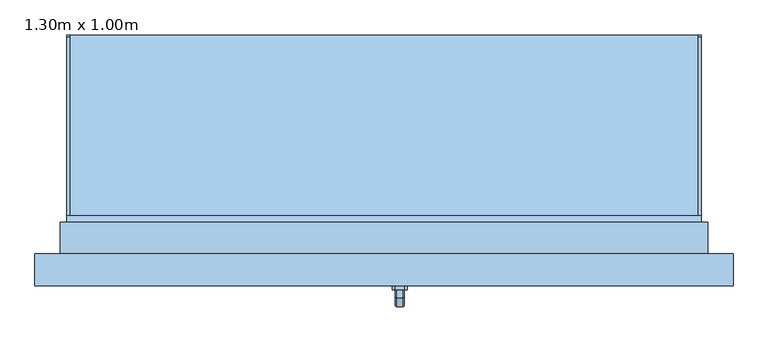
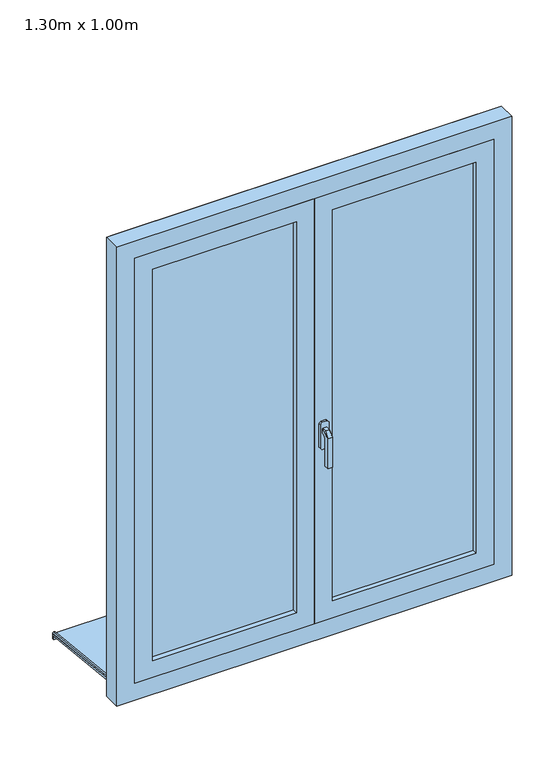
"""IFC4 building model written with IfcOpenShell, lengths in millimetres: window geometry, 2 Vantaux - Droits : 1.30m x 1.00m."""

from ifc_helpers import new_model, si_unit, point, frame, frame_2d, origin, place, context, project, spatial, polyline, circle_curve, trimmed, segment, composite_curve, outline, extrude, faceted_brep, source, transform, mapped, element, save


def window_1_30m_x_1_00m_6cb13c39(model_context):
    return source(origin(), model_context, "Body", "SolidModel", [
        faceted_brep([(30.6460097, -196.0, 1422.0339292), (32.0339292, -196.0, 1420.6460097), (32.0339292, -196.0, 1409.3323012), (30.6676988, -196.0, 1407.9660708), (19.3323012, -196.0, 1407.9660708), (17.9660708, -196.0, 1409.3323012), (17.9660708, -196.0, 1420.6460097), (19.3539903, -196.0, 1422.0339292), (30.6460097, -208.9135489, 1422.0339292), (32.0339292, -208.3386538, 1420.6460097), (32.0339292, -221.6460097, 1407.3386538), (32.0339292, -221.6460097, 1320.0), (32.0339292, -210.3323012, 1320.0), (32.0339292, -210.3323012, 1402.6523623), (32.0339292, -203.6523623, 1409.3323012), (30.6676988, -203.0864511, 1407.9660708), (19.3323012, -203.0864511, 1407.9660708), (17.9660708, -203.6523623, 1409.3323012), (17.9660708, -210.3323012, 1402.6523623), (17.9660708, -210.3323012, 1320.0), (17.9660708, -221.6460097, 1320.0), (17.9660708, -221.6460097, 1407.3386538), (17.9660708, -208.3386538, 1420.6460097), (19.3539903, -208.9135489, 1422.0339292), (30.6460097, -223.0339292, 1407.9135489), (30.6676988, -208.9660708, 1402.0864511), (19.3323012, -208.9660708, 1402.0864511), (19.3539903, -223.0339292, 1407.9135489), (30.6460097, -223.0339292, 1320.0), (19.3539903, -223.0339292, 1320.0), (19.3323012, -208.9660708, 1320.0), (30.6676988, -208.9660708, 1320.0)], [[[0, 1, 2, 3, 4, 5, 6, 7]], [[1, 0, 8, 9]], [[2, 1, 9, 10, 11, 12, 13, 14]], [[3, 2, 14, 15]], [[4, 3, 15, 16]], [[5, 4, 16, 17]], [[6, 5, 17, 18, 19, 20, 21, 22]], [[7, 6, 22, 23]], [[0, 7, 23, 8]], [[9, 8, 24, 10]], [[15, 14, 13, 25]], [[16, 15, 25, 26]], [[17, 16, 26, 18]], [[23, 22, 21, 27]], [[8, 23, 27, 24]], [[28, 29, 20, 19, 30, 31, 12, 11]], [[10, 24, 28, 11]], [[25, 13, 12, 31]], [[26, 25, 31, 30]], [[18, 26, 30, 19]], [[27, 21, 20, 29]], [[24, 27, 29, 28]]]),
        extrude(outline(polyline([(1440.0, 32.0), (1440.0, 18.0), (1435.0, 13.0), (1365.0, 13.0), (1360.0, 18.0), (1360.0, 32.0), (1365.0, 37.0), (1435.0, 37.0), (1440.0, 32.0)])), frame((0.0, -196.0, 0.0), z_axis=(0.0, 1.0, 0.0), x_axis=(0.0, 0.0, 1.0)), (0.0, 0.0, 1.0), 6.0),
        extrude(outline(polyline([(205.0, 757.1473777), (205.0, 741.5916612), (200.0, 742.1171824), (200.0, 752.4176871), (-110.0, 785.0), (-110.0, 800.0), (-105.0, 800.0), (-105.0, 789.7296906), (205.0, 757.1473777)])), frame((-500.0, 0.0, 0.0), z_axis=(1.0, 0.0, 0.0), x_axis=(0.0, 1.0, 0.0)), (0.0, 0.0, 1.0), 1000.0),
        extrude(outline(composite_curve([segment(polyline([(205.0, 757.1473777), (-105.0, 789.7296906), (-105.0, 794.757232), (201.4181139, 762.5513905)]), True, "CONTINUOUS"), segment(trimmed(circle_curve(frame_2d((201.0, 758.5733029)), 4.0), [point((201.4181139, 762.5513905))], [point((205.0, 758.5733029))], False, "CARTESIAN"), True, "CONTINUOUS"), segment(polyline([(205.0, 758.5733029), (205.0, 757.1473777)]), True, "CONTINUOUS")], self_intersect=False)), frame((-500.0, 0.0, 0.0), z_axis=(1.0, 0.0, 0.0), x_axis=(0.0, 1.0, 0.0)), (0.0, 0.0, 1.0), 5.0),
        extrude(outline(composite_curve([segment(polyline([(205.0, 757.1473777), (-105.0, 789.7296906), (-105.0, 794.757232), (201.4181139, 762.5513905)]), True, "CONTINUOUS"), segment(trimmed(circle_curve(frame_2d((201.0, 758.5733029)), 4.0), [point((201.4181139, 762.5513905))], [point((205.0, 758.5733029))], False, "CARTESIAN"), True, "CONTINUOUS"), segment(polyline([(205.0, 758.5733029), (205.0, 757.1473777)]), True, "CONTINUOUS")], self_intersect=False)), frame((495.0, 0.0, 0.0), z_axis=(1.0, 0.0, 0.0), x_axis=(0.0, 1.0, 0.0)), (0.0, 0.0, 1.0), 5.0),
        extrude(outline(polyline([(850.0, 0.0), (2100.0, 0.0), (2100.0, -500.0), (850.0, -500.0), (850.0, 0.0)]), holes=[polyline([(900.0, -450.0), (2050.0, -450.0), (2050.0, -50.0), (900.0, -50.0), (900.0, -450.0)])]), frame((0.0, -190.0, 0.0), z_axis=(0.0, 1.0, 0.0), x_axis=(0.0, 0.0, 1.0)), (0.0, 0.0, 1.0), 40.0),
        extrude(outline(polyline([(50.0, -164.0), (450.0, -164.0), (450.0, -176.0), (50.0, -176.0), (50.0, -164.0)])), frame((0.0, 0.0, 900.0), z_axis=(0.0, 0.0, 1.0), x_axis=(1.0, 0.0, 0.0)), (0.0, 0.0, 1.0), 1150.0),
        extrude(outline(polyline([(-450.0, -164.0), (-50.0, -164.0), (-50.0, -176.0), (-450.0, -176.0), (-450.0, -164.0)])), frame((0.0, 0.0, 900.0), z_axis=(0.0, 0.0, 1.0), x_axis=(1.0, 0.0, 0.0)), (0.0, 0.0, 1.0), 1150.0),
        extrude(outline(polyline([(850.0, 500.0), (2100.0, 500.0), (2100.0, 0.0), (850.0, 0.0), (850.0, 500.0)]), holes=[polyline([(900.0, 50.0), (2050.0, 50.0), (2050.0, 450.0), (900.0, 450.0), (900.0, 50.0)])]), frame((0.0, -190.0, 0.0), z_axis=(0.0, 1.0, 0.0), x_axis=(0.0, 0.0, 1.0)), (0.0, 0.0, 1.0), 40.0),
        faceted_brep([(-550.0, -190.0, 800.0), (-550.0, -140.0, 800.0), (-500.0, -140.0, 800.0), (-500.0, -90.0, 800.0), (500.0, -90.0, 800.0), (500.0, -140.0, 800.0), (550.0, -140.0, 800.0), (550.0, -190.0, 800.0), (-550.0, -190.0, 2150.0), (-550.0, -140.0, 2150.0), (550.0, -140.0, 2150.0), (500.0, -140.0, 839.3761425), (-500.0, -140.0, 839.3761425), (-485.0, -140.0, 2085.0), (-485.0, -140.0, 865.0), (485.0, -140.0, 865.0), (485.0, -140.0, 2085.0), (-500.0, -80.0, 823.2991909), (-500.0, -80.0, 795.0), (-500.0, -90.0, 795.0), (500.0, -90.0, 795.0), (500.0, -80.0, 795.0), (500.0, -80.0, 823.2991909), (550.0, -190.0, 2150.0), (500.0, -190.0, 2100.0), (500.0, -190.0, 850.0), (-500.0, -190.0, 850.0), (-500.0, -190.0, 2100.0), (-485.0, -150.0, 2085.0), (-485.0, -150.0, 865.0), (485.0, -150.0, 865.0), (485.0, -150.0, 2085.0), (500.0, -150.0, 2100.0), (-500.0, -150.0, 2100.0), (-500.0, -150.0, 850.0), (500.0, -150.0, 850.0)], [[[0, 1, 2, 3, 4, 5, 6, 7]], [[1, 0, 8, 9]], [[1, 9, 10, 6, 5, 11, 12, 2], [13, 14, 15, 16]], [[12, 17, 18, 19, 3, 2]], [[3, 19, 20, 4]], [[4, 20, 21, 22, 11, 5]], [[6, 10, 23, 7]], [[0, 7, 23, 8], [24, 25, 26, 27]], [[13, 28, 29, 14]], [[29, 30, 15, 14]], [[31, 16, 15, 30]], [[17, 12, 11, 22]], [[32, 33, 34, 35], [28, 31, 30, 29]], [[34, 33, 27, 26]], [[26, 25, 35, 34]], [[24, 32, 35, 25]], [[18, 17, 22, 21]], [[19, 18, 21, 20]], [[13, 16, 31, 28]], [[33, 32, 24, 27]], [[10, 9, 8, 23]]]),
        extrude(outline(polyline([(800.0, -510.0), (800.0, -500.0), (2100.0, -500.0), (2100.0, 500.0), (800.0, 500.0), (800.0, 510.0), (2110.0, 510.0), (2110.0, -510.0), (800.0, -510.0)])), frame((0.0, -140.0, 0.0), z_axis=(0.0, 1.0, 0.0), x_axis=(0.0, 0.0, 1.0)), (0.0, 0.0, 1.0), 50.0),
        extrude(outline(polyline([(20.0, -142.0), (20.0, -150.0), (-20.0, -150.0), (-20.0, -142.0), (20.0, -142.0)])), frame((0.0, 0.0, 865.0), z_axis=(0.0, 0.0, 1.0), x_axis=(1.0, 0.0, 0.0)), (0.0, 0.0, 1.0), 1220.0),
    ])


if __name__ == "__main__":
    model = new_model("IFC4")
    model_context = context("Model", 3, world=origin())
    ifc_project = project(units=[si_unit("LENGTHUNIT", "METRE", prefix="MILLI")], contexts=[model_context])
    site = spatial("IfcSite", under=ifc_project)
    building = spatial("IfcBuilding", under=site)
    placement = place(None, origin())
    window_1_30m_x_1_00m_shape = window_1_30m_x_1_00m_6cb13c39(model_context)
    element("IfcWindow", 1, ObjectType="2 Vantaux - Droits : 1.30m x 1.00m", at=placement, inside=building, context=model_context, shape_type="MappedRepresentation", body=[
        mapped(window_1_30m_x_1_00m_shape, transform((0.0, 0.0, 0.0), x_axis=(1.0, 0.0, 0.0), y_axis=(0.0, 1.0, 0.0), z_axis=(0.0, 0.0, 1.0))),
    ])
    save(model, "model.ifc")
